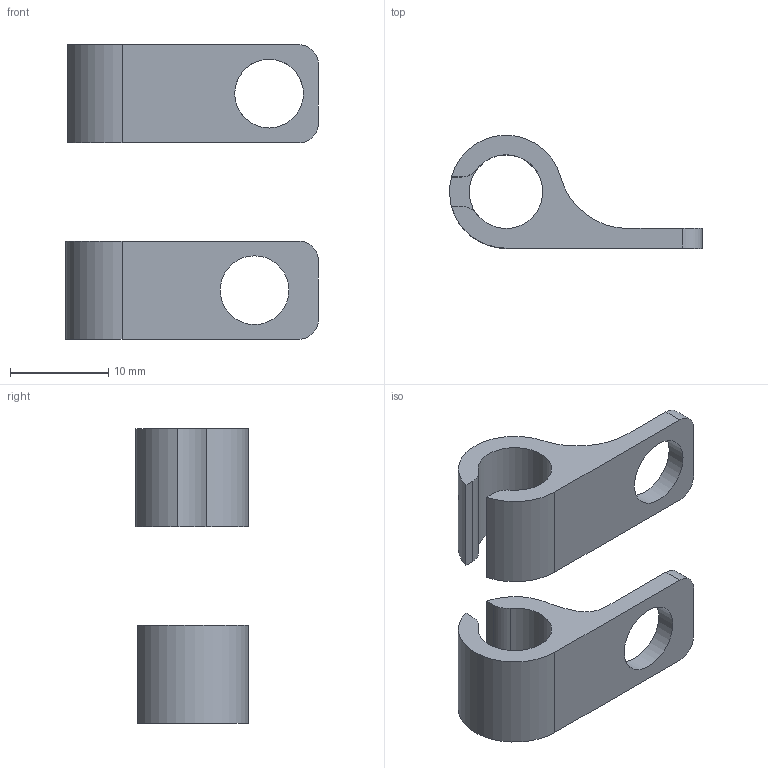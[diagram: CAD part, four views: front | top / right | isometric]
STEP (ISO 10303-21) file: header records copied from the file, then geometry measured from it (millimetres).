
FILE_DESCRIPTION(/* description */ (''),/* implementation_level */ '2;1');
FILE_NAME(/* name */ 'Cable Tie horizontal v01 v2.step',/* time_stamp */ '2023-07-08T15:09:47-07:00',/* author */ (''),/* organization */ (''),/* preprocessor_version */ 'ST-DEVELOPER v19.2',/* originating_system */ 'Autodesk Translation Framework v12.6.0.85',/* authorisation */ '');
FILE_SCHEMA (('AUTOMOTIVE_DESIGN { 1 0 10303 214 3 1 1 }'));
Length unit declared in the file: millimetre
Products named in the file (2): Cable Tie horizontal v01; Vertical
Assembly tree (1 placements, depth 2):
  Cable Tie horizontal v01
    Vertical
Bounding box: 25.74 x 11.48 x 30 mm (x, y, z)
Volume: 1739.8 mm3; surface area: 2023.4 mm2
Topology: 2 solids, 2 shells, 36 faces, 99 edges, 66 vertices
Faces by surface type: cylinder 20, plane 16
Full cylindrical faces by diameter (mm): 7 x2
Entity records: 1233 total; most frequent: DIRECTION 217, CARTESIAN_POINT 213, ORIENTED_EDGE 198, EDGE_CURVE 99, AXIS2_PLACEMENT_3D 80, VERTEX_POINT 66, LINE 57, VECTOR 57
